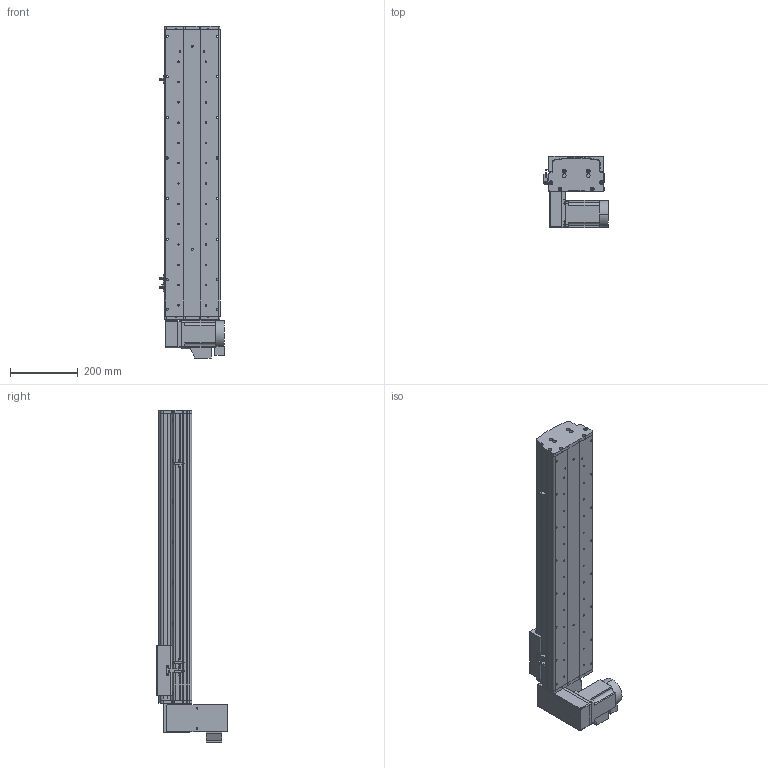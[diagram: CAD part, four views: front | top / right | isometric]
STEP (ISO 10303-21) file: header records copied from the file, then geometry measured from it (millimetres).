
FILE_DESCRIPTION (( 'STEP AP214' ), '1' );
FILE_NAME ('KSD165B-S600-MLD-CM - .STEP', '2017-10-16T06:59:48', ( '微软用户' ), ( '微软中国' ), 'SwSTEP 2.0', 'SolidWorks 2014', '' );
FILE_SCHEMA (( 'AUTOMOTIVE_DESIGN' ));
Length unit declared in the file: millimetre
Products named in the file (17): KSD165B-S600-MLD-CM - ; 130宽模组马达安装板连板上下折丝杆同步带; 130宽模组保护罩上下左右折-同步带; HTPA26S5M250-A-H8 750W萇儂蚚; HTPA26S5M250-A-H8 400W萇儂蚚 ; 拸秶雄ん750W侜督萇儂; KSD165模组-同步带防尘盖1-600行程-最新版; KSD165模组同步带底板-600行程-最新; 165宽马达安装板同步带左-改; U倰嫖萇假蚾璃; U倰嫖萇EEㄜSX672; 覜茼え68遵圉猾敕; KSD165模组-同步带-防撞垫2; KSD165模组同步带-防撞垫1; KSD165耀郪-ヶ傷啣1-肮祭湍; KSD165模组-后端板1-同步带; KSD165模组-同步带滑动座-最新版
Assembly tree (20 placements, depth 2):
  KSD165B-S600-MLD-CM - 
    KSD165模组-同步带滑动座-最新版
    KSD165模组-后端板1-同步带
    KSD165耀郪-ヶ傷啣1-肮祭湍
    KSD165模组同步带-防撞垫1
    KSD165模组-同步带-防撞垫2
    覜茼え68遵圉猾敕
    U倰嫖萇EEㄜSX672  x3
    U倰嫖萇假蚾璃  x3
    165宽马达安装板同步带左-改
    KSD165模组同步带底板-600行程-最新
    KSD165模组-同步带防尘盖1-600行程-最新版
    拸秶雄ん750W侜督萇儂
    HTPA26S5M250-A-H8 400W萇儂蚚 
    HTPA26S5M250-A-H8 750W萇儂蚚
    130宽模组保护罩上下左右折-同步带
    130宽模组马达安装板连板上下折丝杆同步带
Bounding box: 191.2 x 210 x 981 mm (x, y, z)
Volume: 6109083 mm3; surface area: 1417760.8 mm2
Topology: 21 solids, 22 shells, 1921 faces, 5412 edges, 3532 vertices
Faces by surface type: cylinder 1225, plane 584, cone 112
Entity records: 61912 total; most frequent: CARTESIAN_POINT 12702, DIRECTION 10212, ORIENTED_EDGE 9484, EDGE_CURVE 4742, AXIS2_PLACEMENT_3D 4000, VERTEX_POINT 3124, CIRCLE 2276, LINE 2212
